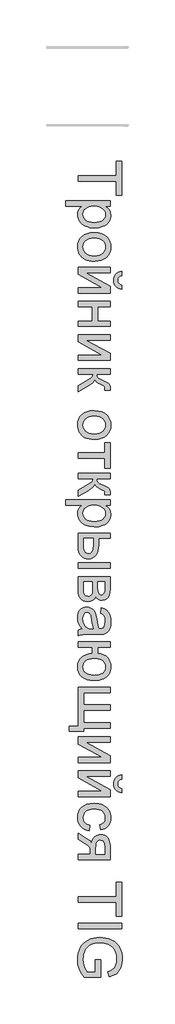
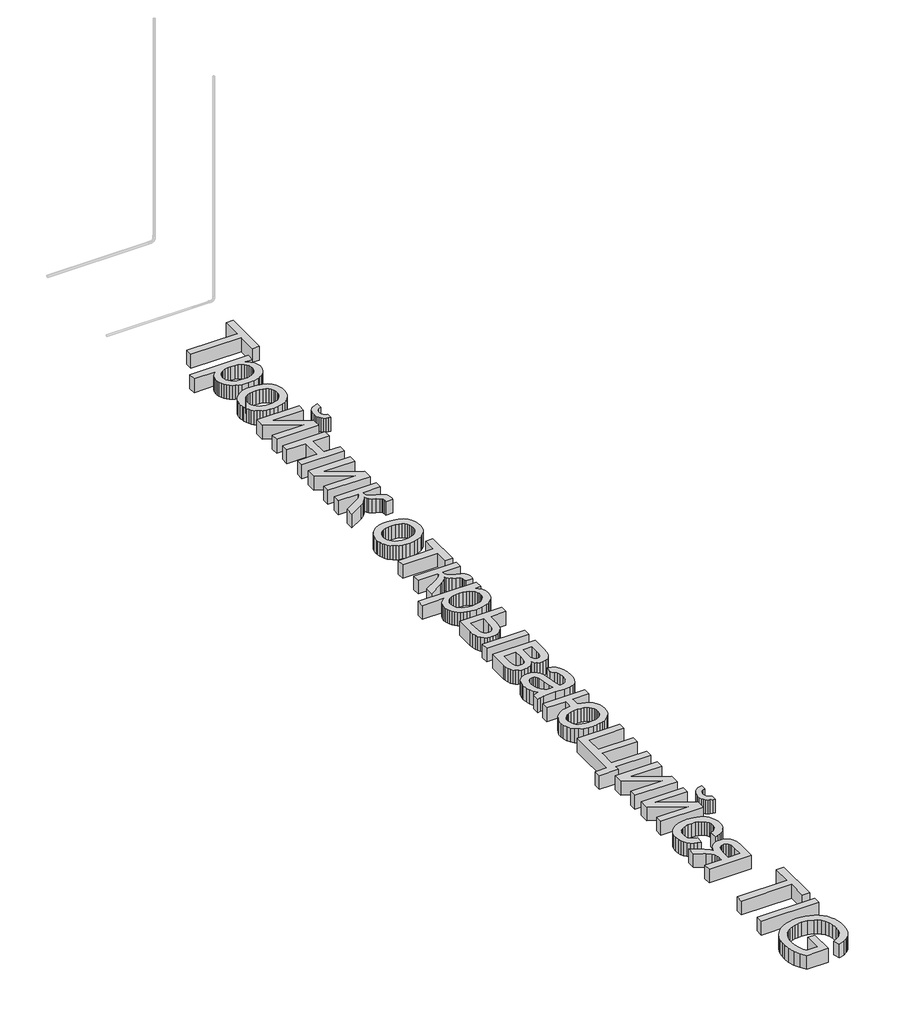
# One storey, part 21 of 33: 1 proxy.
"""IFC4 building model written with IfcOpenShell, lengths in millimetres."""

from ifc_helpers import new_model, si_unit, origin, origin_with_axes, place, context, project, spatial, polyline, outline, extrude, element, save

model = new_model("IFC4")

# Units and contexts
model_context = context("Model", 3, world=origin())
ifc_project = project(units=[si_unit("LENGTHUNIT", "METRE", prefix="MILLI")], contexts=[model_context])

# Site, building, storey
site = spatial("IfcSite", under=ifc_project)
building = spatial("IfcBuilding", under=site)
storey = spatial("IfcBuildingStorey", under=building, Name="Уровень 1", Elevation=0.0)

# Proxy
placement = place(None, origin())
element("IfcBuildingElementProxy", 1, Name="Надпись на модели 1", ObjectType="Надпись на модели 1", at=placement, inside=storey, context=model_context, shape_type="SweptSolid", body=[
    extrude(outline(polyline([(38624.4625724, -714.6440607), (39141.3856493, -714.6440607), (39141.3856493, -520.7979069), (39215.2318032, -520.7979069), (39215.2318032, -982.3363684), (39141.3856493, -982.3363684), (39141.3856493, -788.4902146), (38624.4625724, -788.4902146), (38624.4625724, -714.6440607)])), origin_with_axes(), (0.0, 0.0, 1.0), 150.0),
    extrude(outline(polyline([(38458.3087262, -1056.1825223), (39058.3087262, -1056.1825223), (39058.3087262, -1130.0286761), (38985.9048801, -1130.0286761), (39021.6200243, -1154.1152146), (39047.1308416, -1181.0863684), (39062.437332, -1212.5286761), (39067.5394955, -1250.0286761), (39065.7546397, -1275.7828829), (39060.4000724, -1299.96858), (39051.4757936, -1322.5857675), (39038.9818032, -1343.6344454), (39023.2426205, -1362.6548781), (39004.5827647, -1379.18733), (38983.0022359, -1393.2318011), (38958.5010339, -1404.7882915), (38904.0899762, -1420.2570415), (38844.702957, -1425.4132915), (38781.5479089, -1419.5899742), (38752.4718873, -1412.3108276), (38725.0635339, -1402.1200223), (38700.0394955, -1389.1572819), (38678.1164186, -1373.56233), (38659.2943032, -1355.3351665), (38643.5731493, -1334.4757915), (38631.1738104, -1312.007342), (38622.3171397, -1288.952955), (38617.0031373, -1265.3126305), (38615.2318032, -1241.0863684), (38619.9733897, -1207.1380511), (38634.1981493, -1176.8315607), (38655.6705051, -1150.8880511), (38682.1548801, -1130.0286761), (38458.3087262, -1130.0286761), (38458.3087262, -1056.1825223)]), holes=[polyline([(38837.9241109, -1130.0286761), (38802.3351686, -1132.0253708), (38771.7221878, -1138.015455), (38746.0851686, -1147.9989285), (38725.4241109, -1161.9757915), (38709.5226686, -1178.8012122), (38698.1644955, -1197.3303588), (38691.3495916, -1217.5632314), (38689.077957, -1239.49983), (38691.4307214, -1261.7519333), (38698.4890147, -1282.3543973), (38710.2528368, -1301.3072218), (38726.7221878, -1318.6104069), (38748.1314426, -1333.0289766), (38774.7149762, -1343.327955), (38806.4727887, -1349.507342), (38843.4048801, -1351.5671377), (38878.687332, -1349.5569213), (38909.2462262, -1343.5262723), (38935.0815628, -1333.4751906), (38956.1933416, -1319.4036761), (38972.5995916, -1302.5376906), (38984.3183416, -1284.1031954), (38991.3495916, -1264.1001906), (38993.6933416, -1242.5286761), (38991.2008537, -1221.0247699), (38983.7233897, -1200.7918973), (38971.2609498, -1181.8300583), (38953.8135339, -1164.1392531), (38931.6155171, -1149.2158756), (38904.9012743, -1138.5563204), (38873.6708056, -1132.1605872), (38837.9241109, -1130.0286761)])]), origin_with_axes(), (0.0, 0.0, 1.0), 150.0),
    extrude(outline(polyline([(38841.3856493, -1490.0286761), (38897.5725484, -1494.0220656), (38945.9890147, -1506.0022338), (38986.6350484, -1525.9691809), (39019.5106493, -1553.9229069), (39040.5232695, -1582.0659357), (39055.5322839, -1613.1296377), (39064.5376926, -1647.1140127), (39067.5394955, -1684.0190607), (39063.8841469, -1724.7597458), (39052.9181012, -1761.5971857), (39034.6413585, -1794.5313805), (39009.0539186, -1823.56233), (38977.0211662, -1847.256741), (38939.4084859, -1864.1813204), (38896.2158777, -1874.336068), (38847.4433416, -1877.7209838), (38807.9150964, -1876.2245896), (38772.8399762, -1871.7354069), (38742.2179811, -1864.2534357), (38716.0491109, -1853.7786761), (38693.445445, -1840.4418372), (38673.5190628, -1824.3736281), (38656.2699642, -1805.5740487), (38641.6981493, -1784.0430992), (38630.1191229, -1760.6191208), (38621.8483897, -1736.140455), (38616.8859498, -1710.6071016), (38615.2318032, -1684.0190607), (38618.8736301, -1642.6834237), (38629.7991109, -1605.5034357), (38648.0082455, -1572.4790968), (38673.5010339, -1543.6104069), (38705.8447839, -1520.1683997), (38744.6068032, -1503.4241088), (38789.7870916, -1493.3775343), (38841.3856493, -1490.0286761)]), holes=[polyline([(38841.5298801, -1563.87483), (38805.71107, -1566.0112482), (38774.6969474, -1572.4205031), (38748.4875123, -1583.1025944), (38727.0827647, -1598.0575223), (38710.4556613, -1616.2486281), (38698.5791589, -1636.6392531), (38691.4532575, -1659.2293973), (38689.077957, -1684.0190607), (38691.4667791, -1708.6825223), (38698.6332455, -1731.1825223), (38710.5773561, -1751.5190607), (38727.2991109, -1769.6921377), (38748.9156974, -1784.6470656), (38775.5443032, -1795.3291569), (38807.1849282, -1801.7384117), (38843.8375724, -1803.87483), (38878.5205652, -1801.7248901), (38908.7233897, -1795.2750704), (38934.446046, -1784.5253708), (38955.6885339, -1769.4757915), (38972.3156373, -1751.2351064), (38984.1921397, -1730.9120896), (38991.3180412, -1708.506741), (38993.6933416, -1684.0190607), (38991.3270556, -1659.2293973), (38984.2281974, -1636.6392531), (38972.3967671, -1616.2486281), (38955.8327647, -1598.0575223), (38934.4911181, -1583.1025944), (38908.3267551, -1572.4205031), (38877.3396758, -1566.0112482), (38841.5298801, -1563.87483)])]), origin_with_axes(), (0.0, 0.0, 1.0), 150.0),
    extrude(outline(polyline([(39058.3087262, -1960.7979069), (39058.3087262, -2034.6440607), (38727.4433416, -2034.6440607), (39058.3087262, -2216.0863684), (39058.3087262, -2311.5671377), (38624.4625724, -2311.5671377), (38624.4625724, -2237.7209838), (38953.3087262, -2237.7209838), (38624.4625724, -2057.4325223), (38624.4625724, -1960.7979069), (39058.3087262, -1960.7979069)])), origin_with_axes(), (0.0, 0.0, 1.0), 150.0),
    extrude(outline(polyline([(39215.2318032, -2200.7979069), (39215.2318032, -2256.1825223), (39190.0319835, -2251.7248901), (39167.9421397, -2244.265455), (39148.9622719, -2233.804217), (39133.0923801, -2220.3411761), (39120.5668392, -2204.1467651), (39111.6200243, -2185.4914165), (39106.2519354, -2164.3751305), (39104.4625724, -2140.7979069), (39106.2384137, -2115.1879309), (39111.5659378, -2092.3003107), (39120.4451445, -2072.1350463), (39132.8760339, -2054.6921377), (39148.6783176, -2040.2239886), (39167.671707, -2028.9830031), (39189.8562022, -2020.9691809), (39215.2318032, -2016.1825223), (39215.2318032, -2071.5671377), (39190.9108897, -2079.3555992), (39173.6212262, -2092.3363684), (39163.2906974, -2110.5815607), (39159.8471878, -2134.1632915), (39163.1825243, -2160.7738684), (39173.1885339, -2180.0286761), (39190.3700243, -2193.0094454), (39215.2318032, -2200.7979069)])), origin_with_axes(), (0.0, 0.0, 1.0), 150.0),
    extrude(outline(polyline([(39058.3087262, -2422.3363684), (39058.3087262, -2496.1825223), (38892.1548801, -2496.1825223), (38892.1548801, -2690.0286761), (39058.3087262, -2690.0286761), (39058.3087262, -2763.87483), (38624.4625724, -2763.87483), (38624.4625724, -2690.0286761), (38818.3087262, -2690.0286761), (38818.3087262, -2496.1825223), (38624.4625724, -2496.1825223), (38624.4625724, -2422.3363684), (39058.3087262, -2422.3363684)])), origin_with_axes(), (0.0, 0.0, 1.0), 150.0),
    extrude(outline(polyline([(39058.3087262, -2874.6440607), (39058.3087262, -2948.4902146), (38727.4433416, -2948.4902146), (39058.3087262, -3129.9325223), (39058.3087262, -3225.4132915), (38624.4625724, -3225.4132915), (38624.4625724, -3151.5671377), (38953.3087262, -3151.5671377), (38624.4625724, -2971.2786761), (38624.4625724, -2874.6440607), (39058.3087262, -2874.6440607)])), origin_with_axes(), (0.0, 0.0, 1.0), 150.0),
    extrude(outline(polyline([(39058.3087262, -3336.1825223), (39058.3087262, -3410.0286761), (38873.6933416, -3410.0286761), (38877.0106493, -3440.0647338), (38886.9625724, -3459.49983), (38912.9241109, -3476.6993492), (38964.2702647, -3500.0286761), (39006.2594474, -3518.8327627), (39030.9769955, -3533.7065607), (39044.4445436, -3547.5887723), (39052.6837262, -3563.4180992), (39056.9024762, -3585.3231473), (39058.3087262, -3617.4325223), (39058.3087262, -3631.5671377), (38984.0298801, -3631.5671377), (38984.4625724, -3611.6632915), (38982.515457, -3588.5863684), (38976.6741109, -3575.6055992), (38960.4120916, -3565.0767531), (38928.0683416, -3550.2209838), (38895.6705051, -3534.6260319), (38875.4962262, -3520.43733), (38862.0286782, -3503.2558396), (38849.7510339, -3478.6825223), (38839.3574041, -3502.0839646), (38821.0130532, -3525.2690607), (38794.7179811, -3548.2378107), (38760.4721878, -3570.9902146), (38624.4625724, -3650.0286761), (38624.4625724, -3566.0863684), (38757.5875724, -3488.6344454), (38793.0142551, -3467.7209838), (38813.9096878, -3449.6921377), (38824.1320436, -3431.4830031), (38827.5394955, -3410.0286761), (38624.4625724, -3410.0286761), (38624.4625724, -3336.1825223), (39058.3087262, -3336.1825223)])), origin_with_axes(), (0.0, 0.0, 1.0), 150.0),
    extrude(outline(polyline([(38841.3856493, -3908.4902146), (38897.5725484, -3912.483604), (38945.9890147, -3924.4637723), (38986.6350484, -3944.4307194), (39019.5106493, -3972.3844454), (39040.5232695, -4000.5274742), (39055.5322839, -4031.5911761), (39064.5376926, -4065.5755511), (39067.5394955, -4102.4805992), (39063.8841469, -4143.2212843), (39052.9181012, -4180.0587242), (39034.6413585, -4212.9929189), (39009.0539186, -4242.0238684), (38977.0211662, -4265.7182795), (38939.4084859, -4282.6428588), (38896.2158777, -4292.7976064), (38847.4433416, -4296.1825223), (38807.9150964, -4294.6861281), (38772.8399762, -4290.1969454), (38742.2179811, -4282.7149742), (38716.0491109, -4272.2402146), (38693.445445, -4258.9033756), (38673.5190628, -4242.8351665), (38656.2699642, -4224.0355872), (38641.6981493, -4202.5046377), (38630.1191229, -4179.0806593), (38621.8483897, -4154.6019934), (38616.8859498, -4129.0686401), (38615.2318032, -4102.4805992), (38618.8736301, -4061.1449622), (38629.7991109, -4023.9649742), (38648.0082455, -3990.9406353), (38673.5010339, -3962.0719454), (38705.8447839, -3938.6299381), (38744.6068032, -3921.8856473), (38789.7870916, -3911.8390728), (38841.3856493, -3908.4902146)]), holes=[polyline([(38841.5298801, -3982.3363684), (38805.71107, -3984.4727867), (38774.6969474, -3990.8820415), (38748.4875123, -4001.5641329), (38727.0827647, -4016.5190607), (38710.4556613, -4034.7101665), (38698.5791589, -4055.1007915), (38691.4532575, -4077.6909357), (38689.077957, -4102.4805992), (38691.4667791, -4127.1440607), (38698.6332455, -4149.6440607), (38710.5773561, -4169.9805992), (38727.2991109, -4188.1536761), (38748.9156974, -4203.108604), (38775.5443032, -4213.7906954), (38807.1849282, -4220.1999502), (38843.8375724, -4222.3363684), (38878.5205652, -4220.1864285), (38908.7233897, -4213.7366088), (38934.446046, -4202.9869093), (38955.6885339, -4187.93733), (38972.3156373, -4169.6966449), (38984.1921397, -4149.3736281), (38991.3180412, -4126.9682795), (38993.6933416, -4102.4805992), (38991.3270556, -4077.6909357), (38984.2281974, -4055.1007915), (38972.3967671, -4034.7101665), (38955.8327647, -4016.5190607), (38934.4911181, -4001.5641329), (38908.3267551, -3990.8820415), (38877.3396758, -3984.4727867), (38841.5298801, -3982.3363684)])]), origin_with_axes(), (0.0, 0.0, 1.0), 150.0),
    extrude(outline(polyline([(39058.3087262, -4342.3363684), (39058.3087262, -4693.1055992), (38984.4625724, -4693.1055992), (38984.4625724, -4554.6440607), (38624.4625724, -4554.6440607), (38624.4625724, -4480.7979069), (38984.4625724, -4480.7979069), (38984.4625724, -4342.3363684), (39058.3087262, -4342.3363684)])), origin_with_axes(), (0.0, 0.0, 1.0), 150.0),
    extrude(outline(polyline([(39058.3087262, -4757.7209838), (39058.3087262, -4831.5671377), (38873.6933416, -4831.5671377), (38877.0106493, -4861.6031954), (38886.9625724, -4881.0382915), (38912.9241109, -4898.2378107), (38964.2702647, -4921.5671377), (39006.2594474, -4940.3712242), (39030.9769955, -4955.2450223), (39044.4445436, -4969.1272338), (39052.6837262, -4984.9565607), (39056.9024762, -5006.8616088), (39058.3087262, -5038.9709838), (39058.3087262, -5053.1055992), (38984.0298801, -5053.1055992), (38984.4625724, -5033.2017531), (38982.515457, -5010.12483), (38976.6741109, -4997.1440607), (38960.4120916, -4986.6152146), (38928.0683416, -4971.7594454), (38895.6705051, -4956.1644934), (38875.4962262, -4941.9757915), (38862.0286782, -4924.7943011), (38849.7510339, -4900.2209838), (38839.3574041, -4923.6224261), (38821.0130532, -4946.8075223), (38794.7179811, -4969.7762723), (38760.4721878, -4992.5286761), (38624.4625724, -5071.5671377), (38624.4625724, -4987.62483), (38757.5875724, -4910.1729069), (38793.0142551, -4889.2594454), (38813.9096878, -4871.2305992), (38824.1320436, -4853.0214646), (38827.5394955, -4831.5671377), (38624.4625724, -4831.5671377), (38624.4625724, -4757.7209838), (39058.3087262, -4757.7209838)])), origin_with_axes(), (0.0, 0.0, 1.0), 150.0),
    extrude(outline(polyline([(38458.3087262, -5117.7209838), (39058.3087262, -5117.7209838), (39058.3087262, -5191.5671377), (38985.9048801, -5191.5671377), (39021.6200243, -5215.6536761), (39047.1308416, -5242.62483), (39062.437332, -5274.0671377), (39067.5394955, -5311.5671377), (39065.7546397, -5337.3213444), (39060.4000724, -5361.5070415), (39051.4757936, -5384.124229), (39038.9818032, -5405.1729069), (39023.2426205, -5424.1933396), (39004.5827647, -5440.7257915), (38983.0022359, -5454.7702627), (38958.5010339, -5466.3267531), (38904.0899762, -5481.7955031), (38844.702957, -5486.9517531), (38781.5479089, -5481.1284357), (38752.4718873, -5473.8492891), (38725.0635339, -5463.6584838), (38700.0394955, -5450.6957434), (38678.1164186, -5435.1007915), (38659.2943032, -5416.8736281), (38643.5731493, -5396.0142531), (38631.1738104, -5373.5458035), (38622.3171397, -5350.4914165), (38617.0031373, -5326.851092), (38615.2318032, -5302.62483), (38619.9733897, -5268.6765127), (38634.1981493, -5238.3700223), (38655.6705051, -5212.4265127), (38682.1548801, -5191.5671377), (38458.3087262, -5191.5671377), (38458.3087262, -5117.7209838)]), holes=[polyline([(38837.9241109, -5191.5671377), (38802.3351686, -5193.5638324), (38771.7221878, -5199.5539165), (38746.0851686, -5209.5373901), (38725.4241109, -5223.5142531), (38709.5226686, -5240.3396737), (38698.1644955, -5258.8688204), (38691.3495916, -5279.101693), (38689.077957, -5301.0382915), (38691.4307214, -5323.2903949), (38698.4890147, -5343.8928588), (38710.2528368, -5362.8456833), (38726.7221878, -5380.1488684), (38748.1314426, -5394.5674381), (38774.7149762, -5404.8664165), (38806.4727887, -5411.0458035), (38843.4048801, -5413.1055992), (38878.687332, -5411.0953829), (38909.2462262, -5405.0647338), (38935.0815628, -5395.0136521), (38956.1933416, -5380.9421377), (38972.5995916, -5364.0761521), (38984.3183416, -5345.6416569), (38991.3495916, -5325.6386521), (38993.6933416, -5304.0671377), (38991.2008537, -5282.5632314), (38983.7233897, -5262.3303588), (38971.2609498, -5243.3685199), (38953.8135339, -5225.6777146), (38931.6155171, -5210.7543372), (38904.9012743, -5200.0947819), (38873.6708056, -5193.6990487), (38837.9241109, -5191.5671377)])]), origin_with_axes(), (0.0, 0.0, 1.0), 150.0),
    extrude(outline(polyline([(39058.3087262, -5976.1825223), (39058.3087262, -6050.0286761), (38624.4625724, -6050.0286761), (38624.4625724, -5976.1825223), (39058.3087262, -5976.1825223)])), origin_with_axes(), (0.0, 0.0, 1.0), 150.0),
    extrude(outline(polyline([(39058.3087262, -5570.0286761), (39058.3087262, -5643.87483), (38901.3856493, -5643.87483), (38901.3856493, -5735.1729069), (38899.0734498, -5777.1846256), (38892.1368512, -5814.0851665), (38880.5758537, -5845.8745295), (38864.390457, -5872.5527146), (38844.1395556, -5893.6599862), (38820.3820436, -5908.7366088), (38793.117921, -5917.7825824), (38762.3471878, -5920.7979069), (38734.8937623, -5918.2693612), (38709.5046397, -5910.6837242), (38686.17982, -5898.0409958), (38664.9193032, -5880.3411761), (38647.2194835, -5857.0884718), (38634.5767551, -5827.7870896), (38626.9911181, -5792.4370295), (38624.4625724, -5751.0382915), (38624.4625724, -5570.0286761), (39058.3087262, -5570.0286761)]), holes=[polyline([(38698.3087262, -5643.87483), (38698.3087262, -5719.7402146), (38702.1849282, -5778.5503107), (38707.0301806, -5800.5725463), (38713.8135339, -5817.6729069), (38722.6521758, -5830.4824021), (38733.6632936, -5839.6320415), (38746.8468873, -5845.1218252), (38762.202957, -5846.9517531), (38786.3255532, -5841.5250704), (38807.6356493, -5825.2450223), (38816.343582, -5811.1149141), (38822.5635339, -5790.4313204), (38827.5394955, -5729.4036761), (38827.5394955, -5643.87483), (38698.3087262, -5643.87483)])]), origin_with_axes(), (0.0, 0.0, 1.0), 150.0),
    extrude(outline(polyline([(39058.3087262, -6160.7979069), (39058.3087262, -6323.4902146), (39055.8387743, -6375.7918973), (39048.4289186, -6412.6969454), (39034.4385339, -6439.8483877), (39012.2269955, -6462.8892531), (38983.2906974, -6478.6284357), (38949.1260339, -6483.87483), (38921.5959859, -6480.7017531), (38897.8519955, -6471.1825223), (38877.7858897, -6455.28108), (38861.2894955, -6432.9613684), (38845.9469474, -6460.2930992), (38821.265457, -6482.5767531), (38789.1921397, -6497.3964646), (38751.6741109, -6502.3363684), (38721.4487503, -6498.2348059), (38695.3880532, -6489.8243492), (38673.4920195, -6477.1049982), (38655.7606493, -6460.0767531), (38642.0677407, -6438.7125704), (38632.2870916, -6412.9854069), (38626.4187022, -6382.8952627), (38624.4625724, -6348.4421377), (38624.4625724, -6160.7979069), (39058.3087262, -6160.7979069)]), holes=[polyline([(38698.3087262, -6234.6440607), (38698.3087262, -6325.2209838), (38701.6440628, -6374.5839646), (38711.6500724, -6405.5575223), (38719.5331854, -6415.1578829), (38729.8411782, -6422.1801184), (38757.7318032, -6428.4902146), (38776.2113705, -6425.3351665), (38793.2846878, -6415.8700223), (38806.6440628, -6401.3387723), (38813.9818032, -6382.9854069), (38818.3087262, -6318.0094454), (38818.3087262, -6234.6440607), (38698.3087262, -6234.6440607)]), polyline([(38892.1548801, -6234.6440607), (38892.1548801, -6307.62483), (38895.9048801, -6367.8411761), (38901.5298801, -6383.3459838), (38910.9048801, -6397.1200223), (38923.3087262, -6406.8015127), (38938.0202647, -6410.0286761), (38950.0184618, -6408.6134117), (38960.0515147, -6404.3676184), (38968.1194234, -6397.2912963), (38974.2221878, -6387.3844454), (38981.9024762, -6356.6993492), (38984.4625724, -6309.9325223), (38984.4625724, -6234.6440607), (38892.1548801, -6234.6440607)])]), origin_with_axes(), (0.0, 0.0, 1.0), 150.0),
    extrude(outline(polyline([(38679.8471878, -6871.5671377), (38649.5947839, -6836.2846857), (38629.7991109, -6799.9565607), (38618.8736301, -6761.7534357), (38615.2318032, -6720.8459838), (38617.422308, -6687.9658756), (38623.9938224, -6659.1332434), (38634.9463464, -6634.3480872), (38650.2798801, -6613.6104069), (38669.0208657, -6597.2357074), (38690.1957455, -6585.5394934), (38713.8045195, -6578.5217651), (38739.8471878, -6576.1825223), (38770.4601686, -6579.7161761), (38798.2606493, -6590.3171377), (38822.0587262, -6606.6693011), (38840.6644955, -6627.4565607), (38854.7269955, -6651.8856473), (38864.8952647, -6679.1632915), (38876.0010339, -6743.0575223), (38887.6837262, -6818.56233), (38901.3856493, -6871.1344454), (38917.827957, -6871.5671377), (38950.7846878, -6866.4830031), (38962.9902166, -6860.1278348), (38972.3471878, -6851.2305992), (38981.6861301, -6835.8519934), (38988.3568032, -6817.1200223), (38993.6933416, -6769.5959838), (38990.1416589, -6725.6055992), (38979.4866109, -6694.8844454), (38959.781082, -6673.9349261), (38929.077957, -6659.2594454), (38938.3087262, -6585.4132915), (38978.6933416, -6598.2318011), (39010.4241109, -6617.3604069), (39034.6909378, -6644.5839646), (39052.6837262, -6681.68733), (39063.8255532, -6727.0659357), (39067.5394955, -6779.1152146), (39064.2582455, -6829.0370896), (39054.4144955, -6868.6104069), (39039.6128128, -6898.4481473), (39021.4577647, -6919.1632915), (38999.0118512, -6932.9012723), (38971.3375724, -6941.8075223), (38906.7221878, -6945.4132915), (38814.8471878, -6945.4132915), (38686.5539186, -6949.1632915), (38654.8411782, -6954.7161761), (38624.4625724, -6963.87483), (38624.4625724, -6890.0286761), (38650.1356493, -6878.2017531), (38679.8471878, -6871.5671377)]), holes=[polyline([(38827.5394955, -6871.5671377), (38815.2438224, -6821.9517531), (38804.8952647, -6752.4325223), (38792.9241109, -6688.8988684), (38784.7390147, -6672.3664165), (38773.452957, -6660.12483), (38759.9313224, -6652.5527146), (38745.0394955, -6650.0286761), (38723.0803609, -6655.5274742), (38705.0875724, -6672.0238684), (38693.0803609, -6699.1572819), (38689.077957, -6736.5671377), (38693.4950243, -6776.2305992), (38706.7462262, -6811.2786761), (38726.2714666, -6839.6921377), (38749.5106493, -6859.4517531), (38773.452957, -6868.2137723), (38806.6260339, -6871.1344454), (38827.5394955, -6871.5671377)])]), origin_with_axes(), (0.0, 0.0, 1.0), 150.0),
    extrude(outline(polyline([(39058.3087262, -7046.9517531), (39058.3087262, -7120.7979069), (38892.1548801, -7120.7979069), (38892.1548801, -7203.87483), (38932.3231493, -7211.0818612), (38967.4433416, -7223.0394934), (38997.515457, -7239.7477266), (39022.5394955, -7261.2065607), (39042.2269955, -7286.8120295), (39056.2894955, -7315.9601665), (39064.7269955, -7348.6509718), (39067.5394955, -7384.8844454), (39065.8853488, -7415.5560199), (39060.9229089, -7442.8111281), (39052.6521758, -7466.6497699), (39041.0731493, -7487.0719454), (39009.6128128, -7521.21858), (38968.1644955, -7548.8027146), (38942.9241109, -7559.4352266), (38913.6452647, -7567.0298781), (38880.327957, -7571.5866689), (38842.9721878, -7573.1055992), (38790.327957, -7569.9640728), (38744.4625724, -7560.5394934), (38705.3760339, -7544.8318612), (38673.0683416, -7522.8411761), (38647.7648561, -7495.4688805), (38629.6909378, -7463.6164165), (38618.8465868, -7427.2837843), (38615.2318032, -7386.4709838), (38618.6212262, -7348.4346256), (38628.7894955, -7314.3736281), (38645.7366109, -7284.287991), (38669.4625724, -7258.1777146), (38699.1019955, -7236.6918372), (38733.7894955, -7220.4793973), (38773.5250724, -7209.5403949), (38818.3087262, -7203.87483), (38818.3087262, -7120.7979069), (38624.4625724, -7120.7979069), (38624.4625724, -7046.9517531), (39058.3087262, -7046.9517531)]), holes=[polyline([(38993.6933416, -7389.6440607), (38991.3045195, -7364.6425583), (38984.1380532, -7342.5707434), (38972.1939426, -7323.428616), (38955.4721878, -7307.2161761), (38934.4415387, -7294.3120295), (38909.5707455, -7285.0947819), (38880.859808, -7279.5644333), (38848.3087262, -7277.7209838), (38809.8757335, -7279.577955), (38776.9325243, -7285.1488684), (38749.4790988, -7294.4337242), (38727.515457, -7307.4325223), (38710.6990508, -7323.5412963), (38698.687332, -7342.15608), (38691.4803008, -7363.2768732), (38689.077957, -7386.9036761), (38691.3000123, -7410.4538564), (38697.9661782, -7431.7774742), (38709.0764546, -7450.8745295), (38724.6308416, -7467.7450223), (38745.1341469, -7481.5325824), (38771.0911782, -7491.3808396), (38802.5019354, -7497.2897939), (38839.3664186, -7499.2594454), (38875.5367912, -7497.5557194), (38906.8844474, -7492.4445415), (38933.4093873, -7483.9259117), (38955.1116109, -7471.99983), (38971.9911181, -7456.6302386), (38984.0479089, -7437.78108), (38991.2819835, -7415.452354), (38993.6933416, -7389.6440607)])]), origin_with_axes(), (0.0, 0.0, 1.0), 150.0),
    extrude(outline(polyline([(39058.3087262, -7665.4132915), (39058.3087262, -7739.2594454), (38698.3087262, -7739.2594454), (38698.3087262, -7905.4132915), (39058.3087262, -7905.4132915), (39058.3087262, -7979.2594454), (38698.3087262, -7979.2594454), (38698.3087262, -8145.4132915), (39058.3087262, -8145.4132915), (39058.3087262, -8219.2594454), (38698.3087262, -8219.2594454), (38698.3087262, -8265.4132915), (38504.4625724, -8265.4132915), (38504.4625724, -8191.5671377), (38624.4625724, -8191.5671377), (38624.4625724, -7665.4132915), (39058.3087262, -7665.4132915)])), origin_with_axes(), (0.0, 0.0, 1.0), 150.0),
    extrude(outline(polyline([(39058.3087262, -8339.2594454), (39058.3087262, -8413.1055992), (38727.4433416, -8413.1055992), (39058.3087262, -8594.5479069), (39058.3087262, -8690.0286761), (38624.4625724, -8690.0286761), (38624.4625724, -8616.1825223), (38953.3087262, -8616.1825223), (38624.4625724, -8435.8940607), (38624.4625724, -8339.2594454), (39058.3087262, -8339.2594454)])), origin_with_axes(), (0.0, 0.0, 1.0), 150.0),
    extrude(outline(polyline([(39215.2318032, -9040.7979069), (39215.2318032, -9096.1825223), (39190.0319835, -9091.7248901), (39167.9421397, -9084.265455), (39148.9622719, -9073.804217), (39133.0923801, -9060.3411761), (39120.5668392, -9044.1467651), (39111.6200243, -9025.4914165), (39106.2519354, -9004.3751305), (39104.4625724, -8980.7979069), (39106.2384137, -8955.1879309), (39111.5659378, -8932.3003107), (39120.4451445, -8912.1350463), (39132.8760339, -8894.6921377), (39148.6783176, -8880.2239886), (39167.671707, -8868.9830031), (39189.8562022, -8860.9691809), (39215.2318032, -8856.1825223), (39215.2318032, -8911.5671377), (39190.9108897, -8919.3555992), (39173.6212262, -8932.3363684), (39163.2906974, -8950.5815607), (39159.8471878, -8974.1632915), (39163.1825243, -9000.7738684), (39173.1885339, -9020.0286761), (39190.3700243, -9033.0094454), (39215.2318032, -9040.7979069)])), origin_with_axes(), (0.0, 0.0, 1.0), 150.0),
    extrude(outline(polyline([(39058.3087262, -8800.7979069), (39058.3087262, -8874.6440607), (38727.4433416, -8874.6440607), (39058.3087262, -9056.0863684), (39058.3087262, -9151.5671377), (38624.4625724, -9151.5671377), (38624.4625724, -9077.7209838), (38953.3087262, -9077.7209838), (38624.4625724, -8897.4325223), (38624.4625724, -8800.7979069), (39058.3087262, -8800.7979069)])), origin_with_axes(), (0.0, 0.0, 1.0), 150.0),
    extrude(outline(polyline([(38781.3856493, -9539.2594454), (38772.1548801, -9613.1055992), (38737.3096277, -9605.0737482), (38706.4757936, -9592.5166569), (38679.6533777, -9575.4343252), (38656.8423801, -9553.8267531), (38638.6377527, -9528.6043973), (38625.6344474, -9500.6777146), (38617.8324642, -9470.046705), (38615.2318032, -9436.7113684), (38618.8601085, -9395.2946016), (38629.7450243, -9358.1596857), (38647.8865508, -9325.3066208), (38673.2846878, -9296.7354069), (38705.461671, -9273.6089045), (38743.9397359, -9257.0899742), (38788.7188825, -9247.178616), (38839.7991109, -9243.87483), (38905.5142551, -9249.5178588), (38935.08607, -9256.5716449), (38962.4673801, -9266.4469454), (38987.1083056, -9279.2113684), (39008.4589666, -9294.9325223), (39026.5193633, -9313.6104069), (39041.2894955, -9335.2450223), (39052.7738705, -9358.8583035), (39060.9769955, -9383.4721857), (39065.8988705, -9409.0866689), (39067.5394955, -9435.7017531), (39065.2858897, -9468.4646737), (39058.5250724, -9498.0995896), (39047.2570436, -9524.6065006), (39031.4818032, -9547.9854069), (39011.5599282, -9567.8396737), (38987.8519955, -9583.7726665), (38960.3580051, -9595.7843853), (38929.077957, -9603.87483), (38919.8471878, -9530.0286761), (38952.0647359, -9516.6332434), (38975.1596878, -9495.7738684), (38989.0599282, -9468.6043973), (38993.6933416, -9436.2786761), (38991.4126926, -9411.1870295), (38984.5707455, -9388.5563204), (38973.1675003, -9368.3865487), (38957.202957, -9350.6777146), (38936.3075243, -9336.2591449), (38910.1116109, -9325.9601665), (38878.6152166, -9319.7807795), (38841.8183416, -9317.7209838), (38804.4670796, -9319.7357074), (38772.6056012, -9325.7798781), (38746.2339065, -9335.8534958), (38725.3519955, -9349.9565607), (38709.4821037, -9367.3138324), (38698.1464666, -9387.1500704), (38691.3450844, -9409.4652747), (38689.077957, -9434.2594454), (38694.7390147, -9472.4986281), (38701.8153368, -9489.0355872), (38711.7221878, -9503.8507915), (38724.5677407, -9516.5295776), (38740.4601686, -9526.6572819), (38759.3994714, -9534.2339045), (38781.3856493, -9539.2594454)])), origin_with_axes(), (0.0, 0.0, 1.0), 150.0),
    extrude(outline(polyline([(39058.3087262, -10010.0286761), (38624.4625724, -10010.0286761), (38624.4625724, -9936.1825223), (38790.6164186, -9936.1825223), (38790.6164186, -9895.9421377), (38788.2726686, -9863.8507915), (38781.2414186, -9841.1344454), (38760.796707, -9819.2474261), (38718.2125724, -9789.6440607), (38624.4625724, -9730.7979069), (38624.4625724, -9645.4132915), (38743.0202647, -9719.5479069), (38785.5683416, -9752.2882915), (38797.9721878, -9767.6849261), (38804.4625724, -9782.4325223), (38810.4571637, -9755.3171377), (38819.9313224, -9731.9517531), (38832.8850484, -9712.3363684), (38849.3183416, -9696.4709838), (38868.1765147, -9684.2293973), (38888.4048801, -9675.4854069), (38910.0034378, -9670.2390127), (38932.9721878, -9668.4902146), (38959.5647359, -9670.8790367), (38983.5250724, -9678.0455031), (39004.8531974, -9689.9896136), (39023.5491109, -9706.7113684), (39038.7564426, -9727.9583636), (39049.6188224, -9753.4781954), (39056.1362503, -9783.2708636), (39058.3087262, -9817.3363684), (39058.3087262, -10010.0286761)]), holes=[polyline([(38984.4625724, -9936.1825223), (38984.4625724, -9838.8267531), (38980.1897359, -9788.5443011), (38974.8486902, -9771.5566208), (38967.3712262, -9760.0046377), (38948.8195436, -9746.7534357), (38927.3471878, -9742.3363684), (38912.1984498, -9743.9634718), (38899.2041589, -9748.8447819), (38888.3643152, -9756.9802987), (38879.6789186, -9768.3700223), (38873.0217671, -9783.897366), (38868.2666589, -9804.4457434), (38864.4625724, -9860.6055992), (38864.4625724, -9936.1825223), (38984.4625724, -9936.1825223)])]), origin_with_axes(), (0.0, 0.0, 1.0), 150.0),
    extrude(outline(polyline([(38624.4625724, -10508.4902146), (39141.3856493, -10508.4902146), (39141.3856493, -10314.6440607), (39215.2318032, -10314.6440607), (39215.2318032, -10776.1825223), (39141.3856493, -10776.1825223), (39141.3856493, -10582.3363684), (38624.4625724, -10582.3363684), (38624.4625724, -10508.4902146)])), origin_with_axes(), (0.0, 0.0, 1.0), 150.0),
    extrude(outline(polyline([(38624.4625724, -10868.4902146), (39215.2318032, -10868.4902146), (39215.2318032, -10942.3363684), (38624.4625724, -10942.3363684), (38624.4625724, -10868.4902146)])), origin_with_axes(), (0.0, 0.0, 1.0), 150.0),
    extrude(outline(polyline([(38855.2318032, -11366.9517531), (38929.077957, -11366.9517531), (38929.077957, -11606.9517531), (38708.2606493, -11606.9517531), (38667.6957455, -11548.6284357), (38638.5971878, -11488.4661761), (38621.0731493, -11426.609205), (38615.2318032, -11363.2017531), (38617.5530171, -11320.7843853), (38624.5166589, -11280.359205), (38636.1227287, -11241.9262122), (38652.3712262, -11205.4854069), (38673.0187623, -11172.2131713), (38697.8219474, -11143.2858877), (38726.7807815, -11118.7035559), (38759.8952647, -11098.4661761), (38796.1062022, -11082.6593853), (38834.3543993, -11071.3688204), (38874.6398561, -11064.5944814), (38916.9625724, -11062.3363684), (38959.289796, -11064.585467), (39000.1656974, -11071.3327627), (39039.5902767, -11082.5782555), (39077.5635339, -11098.3219454), (39112.4178008, -11118.2843853), (39142.4854089, -11142.1861281), (39167.7663585, -11170.0271737), (39188.2606493, -11201.8075223), (39204.0989907, -11236.8375704), (39215.4120916, -11274.4277146), (39222.1999522, -11314.577955), (39224.4625724, -11357.2882915), (39219.2161782, -11418.1176184), (39203.4769955, -11472.8171377), (39178.3808416, -11518.8808396), (39162.749832, -11537.7345055), (39145.0635339, -11553.8027146), (39101.9205051, -11579.6380511), (39047.3471878, -11598.4421377), (39028.1644955, -11530.3652146), (39067.0887743, -11515.1668973), (39096.4577647, -11496.68733), (39118.5971878, -11472.2402146), (39135.8327647, -11439.1392531), (39146.9205051, -11399.6741088), (39150.6164186, -11356.1344454), (39146.6320436, -11305.1668973), (39134.6789186, -11261.5911761), (39116.2534378, -11225.5695415), (39092.8519955, -11197.2642531), (39065.6825243, -11175.5394934), (39035.952957, -11159.2594454), (38980.2077647, -11141.9517531), (38919.9914186, -11136.1825223), (38883.117921, -11137.9177987), (38849.3724282, -11143.1236281), (38818.7549402, -11151.8000103), (38791.265457, -11163.9469454), (38767.0076445, -11179.4066809), (38746.0851686, -11198.0214646), (38728.4980291, -11219.7912963), (38714.2462262, -11244.7161761), (38703.2351085, -11271.6287362), (38695.3700243, -11299.3616088), (38690.6509738, -11327.9147939), (38689.077957, -11357.2882915), (38693.8195436, -11408.4361281), (38708.0443032, -11458.3219454), (38727.6416589, -11501.6452627), (38748.5010339, -11533.1055992), (38855.2318032, -11533.1055992), (38855.2318032, -11366.9517531)])), origin_with_axes(), (0.0, 0.0, 1.0), 150.0),
])

save(model, "model.ifc")
